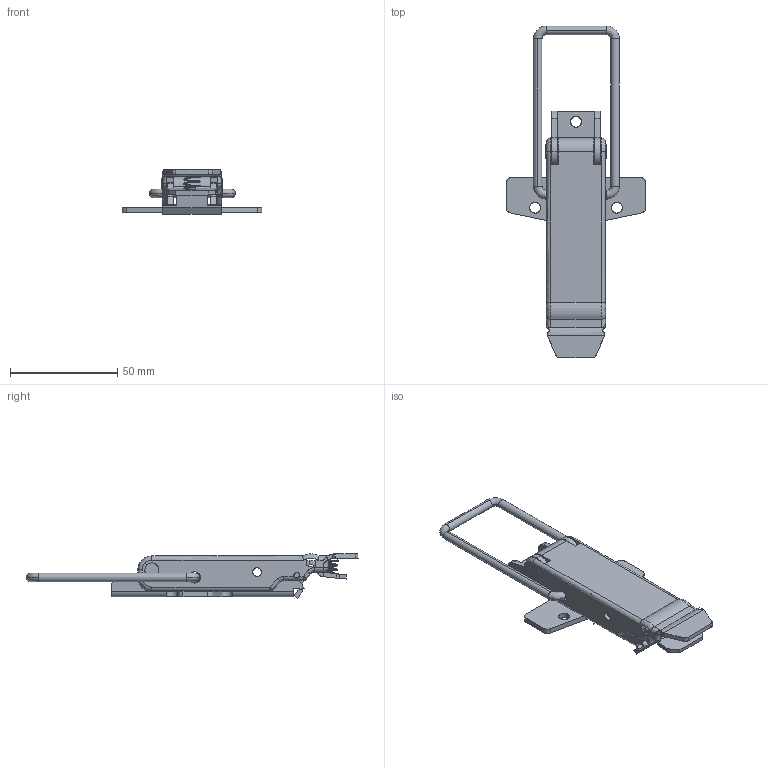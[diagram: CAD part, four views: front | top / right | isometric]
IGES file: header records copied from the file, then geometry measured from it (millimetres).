
Start section: SolidWorks IGES file using analytic representation for surfaces
Global section: file name: C:\Users\cbrechard\Desktop\28328.IGS; native system: SolidWorks 2017; preprocessor: SolidWorks 2017; author: cbrechard; date: 190904.145730; units: millimetre
Bounding box: 65 x 154.6 x 20.66 mm (x, y, z)
Surface area: 24491.7 mm2 (no closed solid volume)
Topology: 0 solids, 0 shells, 275 faces, 3844 edges, 3839 vertices
Faces by surface type: bspline 142, revolution 133
